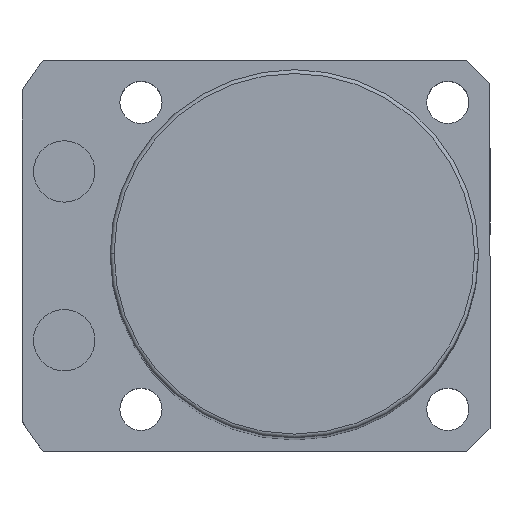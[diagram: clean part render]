
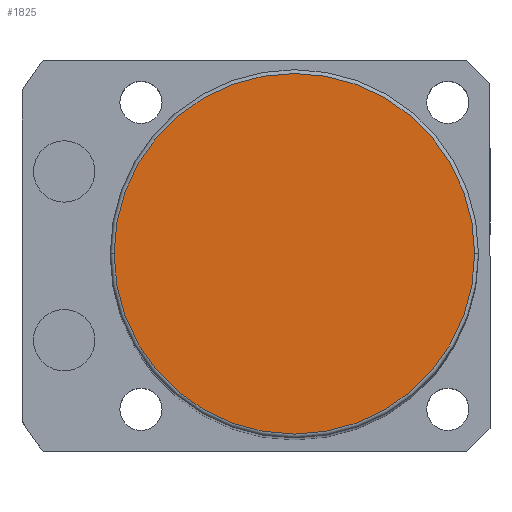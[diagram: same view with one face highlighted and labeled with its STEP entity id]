
A CAD part, top view. The second image highlights one B-rep face of the part: STEP entity #1825.
In plain terms, the highlighted planar face has unit normal (0, 0, 1).
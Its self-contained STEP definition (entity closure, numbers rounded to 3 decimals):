
#194 = CARTESIAN_POINT ( 'NONE',  ( 23.5, 0., 166. ) ) ;
#213 = AXIS2_PLACEMENT_3D ( 'NONE', #607, #1001, #1733 ) ;
#286 = EDGE_LOOP ( 'NONE', ( #1348, #2173 ) ) ;
#288 = CARTESIAN_POINT ( 'NONE',  ( -23.5, 0., 166. ) ) ;
#366 = CARTESIAN_POINT ( 'NONE',  ( 0., 0., 166. ) ) ;
#461 = DIRECTION ( 'NONE',  ( 0., 0., 1. ) ) ;
#556 = VERTEX_POINT ( 'NONE', #288 ) ;
#607 = CARTESIAN_POINT ( 'NONE',  ( 0., 0., 166. ) ) ;
#829 = CARTESIAN_POINT ( 'NONE',  ( 0., 0., 166. ) ) ;
#1001 = DIRECTION ( 'NONE',  ( 0., 0., 1. ) ) ;
#1009 = FACE_OUTER_BOUND ( 'NONE', #286, .T. ) ;
#1039 = AXIS2_PLACEMENT_3D ( 'NONE', #829, #461, #1226 ) ;
#1088 = AXIS2_PLACEMENT_3D ( 'NONE', #366, #1694, #1157 ) ;
#1157 = DIRECTION ( 'NONE',  ( 1., 0., 0. ) ) ;
#1226 = DIRECTION ( 'NONE',  ( 1., 0., 0. ) ) ;
#1348 = ORIENTED_EDGE ( 'NONE', *, *, #1666, .T. ) ;
#1666 = EDGE_CURVE ( 'NONE', #2117, #556, #2428, .T. ) ;
#1694 = DIRECTION ( 'NONE',  ( 0., 0., 1. ) ) ;
#1733 = DIRECTION ( 'NONE',  ( 1., 0., 0. ) ) ;
#1825 = ADVANCED_FACE ( 'NONE', ( #1009 ), #2172, .T. ) ;
#1980 = CIRCLE ( 'NONE', #1039, 23.5 ) ;
#2117 = VERTEX_POINT ( 'NONE', #194 ) ;
#2172 = PLANE ( 'NONE',  #213 ) ;
#2173 = ORIENTED_EDGE ( 'NONE', *, *, #2255, .T. ) ;
#2255 = EDGE_CURVE ( 'NONE', #556, #2117, #1980, .T. ) ;
#2428 = CIRCLE ( 'NONE', #1088, 23.5 ) ;
